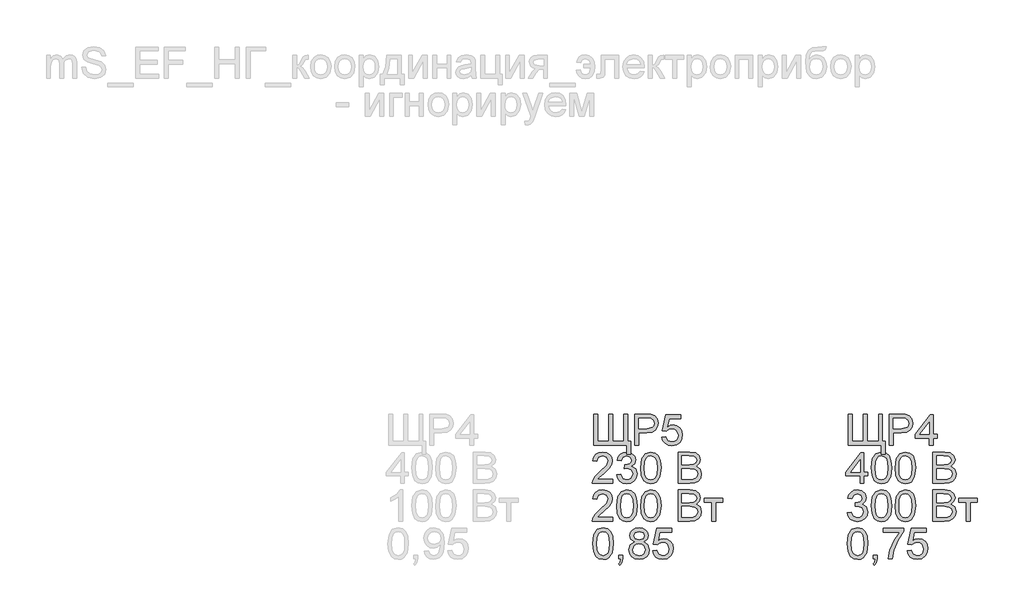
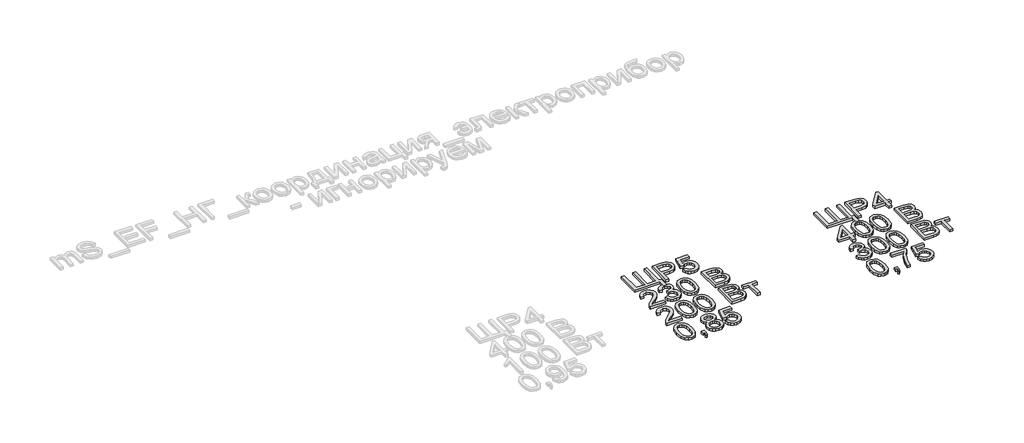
# One storey, part 3 of 3: 2 proxies.
"""IFC4 building model written with IfcOpenShell, lengths in millimetres."""

from ifc_helpers import new_model, si_unit, origin, origin_with_axes, place, context, project, spatial, polyline, outline, extrude, element, save

model = new_model("IFC4")

# Units and contexts
model_context = context("Model", 3, world=origin())
ifc_project = project(units=[si_unit("LENGTHUNIT", "METRE", prefix="MILLI")], contexts=[model_context])

# Site, building, storey
site = spatial("IfcSite", under=ifc_project)
building = spatial("IfcBuilding", under=site)
storey = spatial("IfcBuildingStorey", under=building, Name="Координационный план", Elevation=0.0)

# Proxies
placement = place(None, origin())
element("IfcBuildingElementProxy", 1, Name="100 мм Arial 2", ObjectType="100 мм Arial 2", at=placement, inside=storey, context=model_context, shape_type="SweptSolid", body=[
    extrude(outline(polyline([(15904.6100948, 1779.9187079), (15917.1671335, 1779.9187079), (15917.1671335, 1692.0194365), (15953.26862, 1692.0194365), (15953.26862, 1779.9187079), (15965.8256588, 1779.9187079), (15965.8256588, 1692.0194365), (16001.9271452, 1692.0194365), (16001.9271452, 1779.9187079), (16014.484184, 1779.9187079), (16014.484184, 1692.0194365), (16023.9019631, 1692.0194365), (16023.9019631, 1651.2090605), (16011.3449243, 1651.2090605), (16011.3449243, 1679.4623977), (15904.6100948, 1679.4623977), (15904.6100948, 1779.9187079)])), origin_with_axes(), (0.0, 0.0, 1.0), 10.0),
    extrude(outline(polyline([(16036.4590019, 1679.4623977), (16036.4590019, 1779.9187079), (16073.6886598, 1779.9187079), (16088.6982452, 1778.9622147), (16100.8996647, 1774.2655879), (16108.8091276, 1764.5535032), (16111.8012345, 1750.8560303), (16109.7809492, 1739.0163614), (16103.7200933, 1729.1509926), (16092.3862622, 1722.4923284), (16074.5470511, 1720.2727737), (16049.0160406, 1720.2727737), (16049.0160406, 1679.4623977), (16036.4590019, 1679.4623977)]), holes=[polyline([(16049.0160406, 1732.8298125), (16075.2828151, 1732.8298125), (16093.7750167, 1737.4406002), (16097.8769009, 1742.9894869), (16099.2441957, 1750.4145719), (16096.0190969, 1760.8133696), (16087.5455482, 1766.5032778), (16074.9885095, 1767.3616691), (16049.0160406, 1767.3616691), (16049.0160406, 1732.8298125)])]), origin_with_axes(), (0.0, 0.0, 1.0), 10.0),
    extrude(outline(polyline([(16124.3582732, 1706.1461051), (16136.915312, 1707.715735), (16143.2428823, 1694.7785515), (16156.3640068, 1690.4498067), (16165.364853, 1691.9550572), (16172.1093562, 1696.4708086), (16176.3216051, 1703.475895), (16177.725688, 1712.44915), (16172.4649755, 1727.3606335), (16165.858428, 1731.4625178), (16156.5602105, 1732.8298125), (16145.5360134, 1730.647046), (16138.4849418, 1724.9816633), (16125.9279031, 1726.5512931), (16136.915312, 1778.349078), (16185.5738372, 1778.349078), (16185.5738372, 1765.7920393), (16147.0688551, 1765.7920393), (16141.6977779, 1738.1273132), (16150.6679673, 1743.5719668), (16160.0673522, 1745.3868513), (16171.7997222, 1743.1366397), (16181.539398, 1736.3860051), (16188.0968946, 1726.097572), (16190.2827268, 1713.2339649), (16188.3145581, 1700.6769261), (16182.4100521, 1689.9347719), (16171.1038121, 1680.9032689), (16156.3149559, 1677.8927679), (16143.981712, 1679.8272141), (16134.156197, 1685.6305525), (16127.4208908, 1694.628333), (16124.3582732, 1706.1461051)])), origin_with_axes(), (0.0, 0.0, 1.0), 10.0),
    extrude(outline(polyline([(15965.8256588, 1570.0446187), (15965.8256588, 1557.4875799), (15899.9012052, 1557.4875799), (15901.2501059, 1566.1450695), (15908.8775259, 1579.4746605), (15924.5983499, 1594.0305247), (15946.2788621, 1614.9507475), (15951.6989902, 1629.175518), (15946.5854304, 1640.6902245), (15933.231314, 1645.3868513), (15919.3131119, 1640.8005891), (15914.0278739, 1628.120923), (15901.4708351, 1629.6905528), (15904.5150586, 1641.83679), (15911.0970806, 1650.7088775), (15920.8735447, 1656.1351369), (15933.5010941, 1657.94389), (15946.2206141, 1655.9328018), (15955.978684, 1649.8995371), (15962.1866927, 1640.8864282), (15964.2560289, 1629.9358075), (15962.0242115, 1618.0286936), (15954.6052579, 1605.7169095), (15936.6158284, 1588.5122948), (15922.1703287, 1576.4335026), (15916.504946, 1570.0446187), (15965.8256588, 1570.0446187)])), origin_with_axes(), (0.0, 0.0, 1.0), 10.0),
    extrude(outline(polyline([(15978.3826975, 1584.1712873), (15990.9397363, 1585.7409171), (15997.8681806, 1572.5216908), (16010.8298895, 1568.4749888), (16019.4383282, 1569.866809), (16026.0847296, 1574.0422697), (16031.7501123, 1587.8255818), (16026.1337805, 1600.8118162), (16011.8599591, 1605.9499014), (16003.0553167, 1604.5764753), (16004.4532683, 1617.133514), (16006.4643565, 1616.9863612), (16020.7136525, 1620.5916048), (16025.4593302, 1625.1656043), (16027.0412228, 1631.6771156), (16022.4549606, 1641.4995649), (16010.6336858, 1645.3868513), (15998.6652582, 1641.4627767), (15992.5093662, 1629.6905528), (15979.9523274, 1631.2601827), (15983.6495414, 1642.5357658), (15990.2284978, 1650.9541321), (15999.2293439, 1656.1964506), (16010.1922274, 1657.94389), (16025.3367029, 1654.498062), (16035.9317043, 1645.0802829), (16039.5982615, 1632.4128796), (16036.1156453, 1620.8368595), (16025.8149495, 1612.5227264), (16039.5001597, 1603.9388132), (16044.3071511, 1587.6048526), (16041.9036554, 1575.3666449), (16034.6931683, 1565.1395254), (16023.8099926, 1558.2233439), (16010.3884311, 1555.91795), (15998.2483253, 1557.8861187), (15988.3645623, 1563.7906247), (15981.4913004, 1572.8221277), (15978.3826975, 1584.1712873)])), origin_with_axes(), (0.0, 0.0, 1.0), 10.0),
    extrude(outline(polyline([(16055.29456, 1606.9063946), (16058.9856427, 1635.8096567), (16069.9485261, 1652.474711), (16088.2567868, 1657.94389), (16102.9230156, 1654.7065285), (16113.0520332, 1645.3745885), (16118.9381452, 1630.5121559), (16121.2190135, 1606.9063946), (16117.5647191, 1578.1257598), (16106.6386238, 1561.4239172), (16098.4072642, 1557.2944418), (16088.2567868, 1555.91795), (16075.2092387, 1558.309183), (16065.3009503, 1565.4828819), (16057.7961576, 1582.4728987), (16055.29456, 1606.9063946)]), holes=[polyline([(16067.8515988, 1606.93092), (16069.3231268, 1587.1787226), (16073.7377107, 1575.7467896), (16080.3105357, 1570.292939), (16088.2567868, 1568.4749888), (16096.2030379, 1570.2990704), (16102.7758628, 1575.7713151), (16107.1904468, 1587.2093794), (16108.6619748, 1606.93092), (16107.2394977, 1626.2385934), (16102.9720666, 1637.7594312), (16096.4115043, 1643.4799963), (16088.109634, 1645.3868513), (16080.249222, 1643.7068568), (16073.9339144, 1638.6668735), (16069.3721777, 1626.4286658), (16067.8515988, 1606.93092)])]), origin_with_axes(), (0.0, 0.0, 1.0), 10.0),
    extrude(outline(polyline([(16176.1560582, 1557.4875799), (16176.1560582, 1657.94389), (16214.4893621, 1657.94389), (16233.2636065, 1654.9885713), (16244.3491173, 1645.9018861), (16248.3590311, 1633.0505417), (16244.9867795, 1621.3151061), (16234.7964482, 1612.4246245), (16247.169546, 1603.0558964), (16251.4982908, 1587.4331743), (16248.5429721, 1573.9319051), (16241.2221204, 1564.3179223), (16230.2960251, 1559.2166253), (16214.1950565, 1557.4875799), (16176.1560582, 1557.4875799)]), holes=[polyline([(16188.7130969, 1570.0446187), (16214.4648366, 1570.0446187), (16223.7845138, 1570.535128), (16231.6694512, 1573.2697175), (16236.8933756, 1578.8492611), (16238.941252, 1587.310547), (16236.5377563, 1597.0716826), (16228.7509207, 1602.8964808), (16213.2385633, 1604.5764753), (16188.7130969, 1604.5764753), (16188.7130969, 1570.0446187)]), polyline([(16188.7130969, 1617.133514), (16211.644408, 1617.133514), (16225.0353126, 1618.2126346), (16233.0919283, 1622.8602104), (16235.8019923, 1631.0394535), (16233.2758693, 1639.2309592), (16226.0408567, 1644.0747388), (16209.9030998, 1645.3868513), (16188.7130969, 1645.3868513), (16188.7130969, 1617.133514)])]), origin_with_axes(), (0.0, 0.0, 1.0), 10.0),
    extrude(outline(polyline([(15965.8256588, 1448.0698008), (15965.8256588, 1435.512762), (15899.9012052, 1435.512762), (15901.2501059, 1444.1702517), (15908.8775259, 1457.4998426), (15924.5983499, 1472.0557069), (15946.2788621, 1492.9759297), (15951.6989902, 1507.2007002), (15946.5854304, 1518.7154066), (15933.231314, 1523.4120334), (15919.3131119, 1518.8257712), (15914.0278739, 1506.1461051), (15901.4708351, 1507.715735), (15904.5150586, 1519.8619722), (15911.0970806, 1528.7340596), (15920.8735447, 1534.1603191), (15933.5010941, 1535.9690722), (15946.2206141, 1533.957984), (15955.978684, 1527.9247192), (15962.1866927, 1518.9116104), (15964.2560289, 1507.9609896), (15962.0242115, 1496.0538757), (15954.6052579, 1483.7420916), (15936.6158284, 1466.537477), (15922.1703287, 1454.4586848), (15916.504946, 1448.0698008), (15965.8256588, 1448.0698008)])), origin_with_axes(), (0.0, 0.0, 1.0), 10.0),
    extrude(outline(polyline([(15978.3826975, 1484.9315767), (15982.0737802, 1513.8348388), (15993.0366637, 1530.4998932), (16011.3449243, 1535.9690722), (16026.0111532, 1532.7317106), (16036.1401708, 1523.3997707), (16042.0262827, 1508.5373381), (16044.3071511, 1484.9315767), (16040.6528566, 1456.150942), (16029.7267613, 1439.4490994), (16021.4954017, 1435.319624), (16011.3449243, 1433.9431322), (15998.2973762, 1436.3343652), (15988.3890878, 1443.5080641), (15980.8842951, 1460.4980809), (15978.3826975, 1484.9315767)]), holes=[polyline([(15990.9397363, 1484.9561022), (15992.4112643, 1465.2039047), (15996.8258482, 1453.7719717), (16003.3986732, 1448.3181212), (16011.3449243, 1446.500171), (16019.2911754, 1448.3242525), (16025.8640004, 1453.7964972), (16030.2785843, 1465.2345616), (16031.7501123, 1484.9561022), (16030.3276353, 1504.2637756), (16026.0602041, 1515.7846134), (16019.4996419, 1521.5051784), (16011.1977715, 1523.4120334), (16003.3373596, 1521.732039), (15997.022052, 1516.6920557), (15992.4603152, 1504.4538479), (15990.9397363, 1484.9561022)])]), origin_with_axes(), (0.0, 0.0, 1.0), 10.0),
    extrude(outline(polyline([(16055.29456, 1484.9315767), (16058.9856427, 1513.8348388), (16069.9485261, 1530.4998932), (16088.2567868, 1535.9690722), (16102.9230156, 1532.7317106), (16113.0520332, 1523.3997707), (16118.9381452, 1508.5373381), (16121.2190135, 1484.9315767), (16117.5647191, 1456.150942), (16106.6386238, 1439.4490994), (16098.4072642, 1435.319624), (16088.2567868, 1433.9431322), (16075.2092387, 1436.3343652), (16065.3009503, 1443.5080641), (16057.7961576, 1460.4980809), (16055.29456, 1484.9315767)]), holes=[polyline([(16067.8515988, 1484.9561022), (16069.3231268, 1465.2039047), (16073.7377107, 1453.7719717), (16080.3105357, 1448.3181212), (16088.2567868, 1446.500171), (16096.2030379, 1448.3242525), (16102.7758628, 1453.7964972), (16107.1904468, 1465.2345616), (16108.6619748, 1484.9561022), (16107.2394977, 1504.2637756), (16102.9720666, 1515.7846134), (16096.4115043, 1521.5051784), (16088.109634, 1523.4120334), (16080.249222, 1521.732039), (16073.9339144, 1516.6920557), (16069.3721777, 1504.4538479), (16067.8515988, 1484.9561022)])]), origin_with_axes(), (0.0, 0.0, 1.0), 10.0),
    extrude(outline(polyline([(16176.1560582, 1435.512762), (16176.1560582, 1535.9690722), (16214.4893621, 1535.9690722), (16233.2636065, 1533.0137535), (16244.3491173, 1523.9270682), (16248.3590311, 1511.0757239), (16244.9867795, 1499.3402882), (16234.7964482, 1490.4498067), (16247.169546, 1481.0810785), (16251.4982908, 1465.4583565), (16248.5429721, 1451.9570872), (16241.2221204, 1442.3431044), (16230.2960251, 1437.2418074), (16214.1950565, 1435.512762), (16176.1560582, 1435.512762)]), holes=[polyline([(16188.7130969, 1495.1586962), (16211.644408, 1495.1586962), (16225.0353126, 1496.2378167), (16233.0919283, 1500.8853926), (16235.8019923, 1509.0646356), (16233.2758693, 1517.2561414), (16226.0408567, 1522.099921), (16209.9030998, 1523.4120334), (16188.7130969, 1523.4120334), (16188.7130969, 1495.1586962)]), polyline([(16188.7130969, 1448.0698008), (16214.4648366, 1448.0698008), (16223.7845138, 1448.5603101), (16231.6694512, 1451.2948996), (16236.8933756, 1456.8744432), (16238.941252, 1465.3357291), (16236.5377563, 1475.0968647), (16228.7509207, 1480.921663), (16213.2385633, 1482.6016574), (16188.7130969, 1482.6016574), (16188.7130969, 1448.0698008)])]), origin_with_axes(), (0.0, 0.0, 1.0), 10.0),
    extrude(outline(polyline([(16260.9160698, 1509.2853648), (16320.562004, 1509.2853648), (16320.562004, 1496.728326), (16297.0175563, 1496.728326), (16297.0175563, 1435.512762), (16284.4605175, 1435.512762), (16284.4605175, 1496.728326), (16260.9160698, 1496.728326), (16260.9160698, 1509.2853648)])), origin_with_axes(), (0.0, 0.0, 1.0), 10.0),
    extrude(outline(polyline([(15901.4708351, 1362.9567589), (15905.1619178, 1391.860021), (15916.1248012, 1408.5250754), (15934.4330619, 1413.9942544), (15949.0992907, 1410.7568928), (15959.2283083, 1401.4249529), (15965.1144203, 1386.5625202), (15967.3952886, 1362.9567589), (15963.7409941, 1334.1761241), (15952.8148989, 1317.4742816), (15944.5835392, 1313.3448062), (15934.4330619, 1311.9683144), (15921.3855138, 1314.3595473), (15911.4772254, 1321.5332462), (15903.9724327, 1338.523263), (15901.4708351, 1362.9567589)]), holes=[polyline([(15914.0278739, 1362.9812844), (15915.4994018, 1343.2290869), (15919.9139858, 1331.7971539), (15926.4868108, 1326.3433033), (15934.4330619, 1324.5253531), (15942.379313, 1326.3494347), (15948.9521379, 1331.8216794), (15953.3667219, 1343.2597437), (15954.8382499, 1362.9812844), (15953.4157728, 1382.2889577), (15949.1483417, 1393.8097956), (15942.5877794, 1399.5303606), (15934.2859091, 1401.4372156), (15926.4254971, 1399.7572211), (15920.1101895, 1394.7172378), (15915.5484528, 1382.4790301), (15914.0278739, 1362.9812844)])]), origin_with_axes(), (0.0, 0.0, 1.0), 10.0),
    extrude(outline(polyline([(15984.6612169, 1313.5379442), (15984.6612169, 1326.094983), (15997.2182557, 1326.094983), (15997.2182557, 1313.5379442), (15994.9619128, 1300.6988626), (15987.8004766, 1293.1327562), (15984.6612169, 1297.8416457), (15989.2720046, 1303.2617738), (15990.9152108, 1313.5379442), (15984.6612169, 1313.5379442)])), origin_with_axes(), (0.0, 0.0, 1.0), 10.0),
    extrude(outline(polyline([(16035.9194416, 1368.8673963), (16024.4783115, 1376.6664946), (16020.7627034, 1388.8066004), (16022.7860544, 1398.6229183), (16028.8561073, 1406.7347163), (16038.2922805, 1412.1793698), (16050.4139922, 1413.9942544), (16062.6092803, 1412.1364503), (16072.1680809, 1406.5630381), (16078.3484984, 1398.3224814), (16080.4086375, 1388.4632439), (16076.7420803, 1376.6297064), (16065.6197813, 1368.8673963), (16078.9738978, 1359.0204215), (16083.5478972, 1342.7723001), (16081.2792916, 1330.7670843), (16074.4734747, 1320.8465332), (16063.9643124, 1314.1878691), (16050.5856705, 1311.9683144), (16037.2070286, 1314.1970661), (16026.6978662, 1320.8833214), (16019.8920493, 1330.8989087), (16017.6234437, 1343.1156566), (16022.3813842, 1359.7439228), (16035.9194416, 1368.8673963)]), holes=[polyline([(16033.3197422, 1388.4387184), (16037.7711143, 1378.579481), (16050.7328233, 1374.7535082), (16063.4370148, 1378.5549555), (16067.8515988, 1387.8746327), (16063.289862, 1397.5254037), (16050.5856705, 1401.4372156), (16037.8446907, 1397.6112428), (16033.3197422, 1388.4387184)]), polyline([(16030.1804825, 1343.557115), (16032.2774098, 1334.1025477), (16039.6963634, 1327.0269507), (16050.6837723, 1324.5253531), (16059.2308974, 1325.8405313), (16065.6443068, 1329.7860657), (16070.9908585, 1343.1647075), (16065.4726285, 1356.8008668), (16058.9120663, 1360.8475688), (16050.2668394, 1362.1964694), (16041.839276, 1360.8659629), (16035.4902459, 1356.8744432), (16030.1804825, 1343.557115)])]), origin_with_axes(), (0.0, 0.0, 1.0), 10.0),
    extrude(outline(polyline([(16094.5353062, 1340.2216516), (16107.0923449, 1341.7912814), (16113.4199152, 1328.8540979), (16126.5410397, 1324.5253531), (16135.5418859, 1326.0306036), (16142.2863891, 1330.5463551), (16146.498638, 1337.5514414), (16147.9027209, 1346.5246964), (16142.6420084, 1361.43618), (16136.0354609, 1365.5380642), (16126.7372435, 1366.905359), (16115.7130463, 1364.7225925), (16108.6619748, 1359.0572097), (16096.104936, 1360.6268396), (16107.0923449, 1412.4246245), (16155.7508702, 1412.4246245), (16155.7508702, 1399.8675857), (16117.245888, 1399.8675857), (16111.8748109, 1372.2028597), (16120.8450002, 1377.6475132), (16130.2443852, 1379.4623977), (16141.9767551, 1377.2121862), (16151.7164309, 1370.4615516), (16158.2739275, 1360.1731185), (16160.4597597, 1347.3095114), (16158.491591, 1334.7524726), (16152.587085, 1324.0103183), (16141.280845, 1314.9788154), (16126.4919888, 1311.9683144), (16114.1587449, 1313.9027605), (16104.33323, 1319.706099), (16097.5979238, 1328.7038795), (16094.5353062, 1340.2216516)])), origin_with_axes(), (0.0, 0.0, 1.0), 10.0),
])
element("IfcBuildingElementProxy", 2, Name="100 мм Arial 2", ObjectType="100 мм Arial 2", at=placement, inside=storey, context=model_context, shape_type="SweptSolid", body=[
    extrude(outline(polyline([(16724.6100948, 1779.9187079), (16737.1671335, 1779.9187079), (16737.1671335, 1692.0194365), (16773.26862, 1692.0194365), (16773.26862, 1779.9187079), (16785.8256588, 1779.9187079), (16785.8256588, 1692.0194365), (16821.9271452, 1692.0194365), (16821.9271452, 1779.9187079), (16834.484184, 1779.9187079), (16834.484184, 1692.0194365), (16843.9019631, 1692.0194365), (16843.9019631, 1651.2090605), (16831.3449243, 1651.2090605), (16831.3449243, 1679.4623977), (16724.6100948, 1679.4623977), (16724.6100948, 1779.9187079)])), origin_with_axes(), (0.0, 0.0, 1.0), 10.0),
    extrude(outline(polyline([(16856.4590019, 1679.4623977), (16856.4590019, 1779.9187079), (16893.6886598, 1779.9187079), (16908.6982452, 1778.9622147), (16920.8996647, 1774.2655879), (16928.8091276, 1764.5535032), (16931.8012345, 1750.8560303), (16929.7809492, 1739.0163614), (16923.7200933, 1729.1509926), (16912.3862622, 1722.4923284), (16894.5470511, 1720.2727737), (16869.0160406, 1720.2727737), (16869.0160406, 1679.4623977), (16856.4590019, 1679.4623977)]), holes=[polyline([(16869.0160406, 1732.8298125), (16895.2828151, 1732.8298125), (16913.7750167, 1737.4406002), (16917.8769009, 1742.9894869), (16919.2441957, 1750.4145719), (16916.0190969, 1760.8133696), (16907.5455482, 1766.5032778), (16894.9885095, 1767.3616691), (16869.0160406, 1767.3616691), (16869.0160406, 1732.8298125)])]), origin_with_axes(), (0.0, 0.0, 1.0), 10.0),
    extrude(outline(polyline([(16985.1686492, 1679.4623977), (16985.1686492, 1703.0068454), (16939.6493837, 1703.0068454), (16939.6493837, 1715.5638842), (16988.3079089, 1778.349078), (16997.725688, 1778.349078), (16997.725688, 1715.5638842), (17010.2827268, 1715.5638842), (17010.2827268, 1703.0068454), (16997.725688, 1703.0068454), (16997.725688, 1679.4623977), (16985.1686492, 1679.4623977)]), holes=[polyline([(16985.1686492, 1715.5638842), (16985.1686492, 1754.363172), (16955.1004275, 1715.5638842), (16985.1686492, 1715.5638842)])]), origin_with_axes(), (0.0, 0.0, 1.0), 10.0),
    extrude(outline(polyline([(16762.2812111, 1557.4875799), (16762.2812111, 1581.0320276), (16716.7619456, 1581.0320276), (16716.7619456, 1593.5890664), (16765.4204708, 1656.3742602), (16774.8382499, 1656.3742602), (16774.8382499, 1593.5890664), (16787.3952886, 1593.5890664), (16787.3952886, 1581.0320276), (16774.8382499, 1581.0320276), (16774.8382499, 1557.4875799), (16762.2812111, 1557.4875799)]), holes=[polyline([(16762.2812111, 1593.5890664), (16762.2812111, 1632.3883541), (16732.2129893, 1593.5890664), (16762.2812111, 1593.5890664)])]), origin_with_axes(), (0.0, 0.0, 1.0), 10.0),
    extrude(outline(polyline([(16798.3826975, 1606.9063946), (16802.0737802, 1635.8096567), (16813.0366637, 1652.474711), (16831.3449243, 1657.94389), (16846.0111532, 1654.7065285), (16856.1401708, 1645.3745885), (16862.0262827, 1630.5121559), (16864.3071511, 1606.9063946), (16860.6528566, 1578.1257598), (16849.7267613, 1561.4239172), (16841.4954017, 1557.2944418), (16831.3449243, 1555.91795), (16818.2973762, 1558.309183), (16808.3890878, 1565.4828819), (16800.8842951, 1582.4728987), (16798.3826975, 1606.9063946)]), holes=[polyline([(16810.9397363, 1606.93092), (16812.4112643, 1587.1787226), (16816.8258482, 1575.7467896), (16823.3986732, 1570.292939), (16831.3449243, 1568.4749888), (16839.2911754, 1570.2990704), (16845.8640004, 1575.7713151), (16850.2785843, 1587.2093794), (16851.7501123, 1606.93092), (16850.3276353, 1626.2385934), (16846.0602041, 1637.7594312), (16839.4996419, 1643.4799963), (16831.1977715, 1645.3868513), (16823.3373596, 1643.7068568), (16817.022052, 1638.6668735), (16812.4603152, 1626.4286658), (16810.9397363, 1606.93092)])]), origin_with_axes(), (0.0, 0.0, 1.0), 10.0),
    extrude(outline(polyline([(16875.29456, 1606.9063946), (16878.9856427, 1635.8096567), (16889.9485261, 1652.474711), (16908.2567868, 1657.94389), (16922.9230156, 1654.7065285), (16933.0520332, 1645.3745885), (16938.9381452, 1630.5121559), (16941.2190135, 1606.9063946), (16937.5647191, 1578.1257598), (16926.6386238, 1561.4239172), (16918.4072642, 1557.2944418), (16908.2567868, 1555.91795), (16895.2092387, 1558.309183), (16885.3009503, 1565.4828819), (16877.7961576, 1582.4728987), (16875.29456, 1606.9063946)]), holes=[polyline([(16887.8515988, 1606.93092), (16889.3231268, 1587.1787226), (16893.7377107, 1575.7467896), (16900.3105357, 1570.292939), (16908.2567868, 1568.4749888), (16916.2030379, 1570.2990704), (16922.7758628, 1575.7713151), (16927.1904468, 1587.2093794), (16928.6619748, 1606.93092), (16927.2394977, 1626.2385934), (16922.9720666, 1637.7594312), (16916.4115043, 1643.4799963), (16908.109634, 1645.3868513), (16900.249222, 1643.7068568), (16893.9339144, 1638.6668735), (16889.3721777, 1626.4286658), (16887.8515988, 1606.93092)])]), origin_with_axes(), (0.0, 0.0, 1.0), 10.0),
    extrude(outline(polyline([(16996.1560582, 1557.4875799), (16996.1560582, 1657.94389), (17034.4893621, 1657.94389), (17053.2636065, 1654.9885713), (17064.3491173, 1645.9018861), (17068.3590311, 1633.0505417), (17064.9867795, 1621.3151061), (17054.7964482, 1612.4246245), (17067.169546, 1603.0558964), (17071.4982908, 1587.4331743), (17068.5429721, 1573.9319051), (17061.2221204, 1564.3179223), (17050.2960251, 1559.2166253), (17034.1950565, 1557.4875799), (16996.1560582, 1557.4875799)]), holes=[polyline([(17008.7130969, 1617.133514), (17031.644408, 1617.133514), (17045.0353126, 1618.2126346), (17053.0919283, 1622.8602104), (17055.8019923, 1631.0394535), (17053.2758693, 1639.2309592), (17046.0408567, 1644.0747388), (17029.9030998, 1645.3868513), (17008.7130969, 1645.3868513), (17008.7130969, 1617.133514)]), polyline([(17008.7130969, 1570.0446187), (17034.4648366, 1570.0446187), (17043.7845138, 1570.535128), (17051.6694512, 1573.2697175), (17056.8933756, 1578.8492611), (17058.941252, 1587.310547), (17056.5377563, 1597.0716826), (17048.7509207, 1602.8964808), (17033.2385633, 1604.5764753), (17008.7130969, 1604.5764753), (17008.7130969, 1570.0446187)])]), origin_with_axes(), (0.0, 0.0, 1.0), 10.0),
    extrude(outline(polyline([(16721.4708351, 1462.1964694), (16734.0278739, 1463.7660993), (16740.9563181, 1450.5468729), (16753.9180271, 1446.500171), (16762.5264658, 1447.8919912), (16769.1728671, 1452.0674518), (16774.8382499, 1465.8507639), (16769.2219181, 1478.8369983), (16754.9480967, 1483.9750835), (16746.1434542, 1482.6016574), (16747.5414058, 1495.1586962), (16749.5524941, 1495.0115434), (16763.80179, 1498.616787), (16768.5474677, 1503.1907864), (16770.1293603, 1509.7022977), (16765.5430981, 1519.524747), (16753.7218233, 1523.4120334), (16741.7533958, 1519.4879588), (16735.5975037, 1507.715735), (16723.0404649, 1509.2853648), (16726.737679, 1520.560948), (16733.3166353, 1528.9793143), (16742.3174815, 1534.2216327), (16753.2803649, 1535.9690722), (16768.4248404, 1532.5232442), (16779.0198419, 1523.1054651), (16782.6863991, 1510.4380617), (16779.2037829, 1498.8620416), (16768.903087, 1490.5479085), (16782.5882972, 1481.9639953), (16787.3952886, 1465.6300347), (16784.9917929, 1453.391827), (16777.7813058, 1443.1647075), (16766.8981301, 1436.248526), (16753.4765687, 1433.9431322), (16741.3364628, 1435.9113009), (16731.4526999, 1441.8158069), (16724.5794379, 1450.8473099), (16721.4708351, 1462.1964694)])), origin_with_axes(), (0.0, 0.0, 1.0), 10.0),
    extrude(outline(polyline([(16798.3826975, 1484.9315767), (16802.0737802, 1513.8348388), (16813.0366637, 1530.4998932), (16831.3449243, 1535.9690722), (16846.0111532, 1532.7317106), (16856.1401708, 1523.3997707), (16862.0262827, 1508.5373381), (16864.3071511, 1484.9315767), (16860.6528566, 1456.150942), (16849.7267613, 1439.4490994), (16841.4954017, 1435.319624), (16831.3449243, 1433.9431322), (16818.2973762, 1436.3343652), (16808.3890878, 1443.5080641), (16800.8842951, 1460.4980809), (16798.3826975, 1484.9315767)]), holes=[polyline([(16810.9397363, 1484.9561022), (16812.4112643, 1465.2039047), (16816.8258482, 1453.7719717), (16823.3986732, 1448.3181212), (16831.3449243, 1446.500171), (16839.2911754, 1448.3242525), (16845.8640004, 1453.7964972), (16850.2785843, 1465.2345616), (16851.7501123, 1484.9561022), (16850.3276353, 1504.2637756), (16846.0602041, 1515.7846134), (16839.4996419, 1521.5051784), (16831.1977715, 1523.4120334), (16823.3373596, 1521.732039), (16817.022052, 1516.6920557), (16812.4603152, 1504.4538479), (16810.9397363, 1484.9561022)])]), origin_with_axes(), (0.0, 0.0, 1.0), 10.0),
    extrude(outline(polyline([(16875.29456, 1484.9315767), (16878.9856427, 1513.8348388), (16889.9485261, 1530.4998932), (16908.2567868, 1535.9690722), (16922.9230156, 1532.7317106), (16933.0520332, 1523.3997707), (16938.9381452, 1508.5373381), (16941.2190135, 1484.9315767), (16937.5647191, 1456.150942), (16926.6386238, 1439.4490994), (16918.4072642, 1435.319624), (16908.2567868, 1433.9431322), (16895.2092387, 1436.3343652), (16885.3009503, 1443.5080641), (16877.7961576, 1460.4980809), (16875.29456, 1484.9315767)]), holes=[polyline([(16887.8515988, 1484.9561022), (16889.3231268, 1465.2039047), (16893.7377107, 1453.7719717), (16900.3105357, 1448.3181212), (16908.2567868, 1446.500171), (16916.2030379, 1448.3242525), (16922.7758628, 1453.7964972), (16927.1904468, 1465.2345616), (16928.6619748, 1484.9561022), (16927.2394977, 1504.2637756), (16922.9720666, 1515.7846134), (16916.4115043, 1521.5051784), (16908.109634, 1523.4120334), (16900.249222, 1521.732039), (16893.9339144, 1516.6920557), (16889.3721777, 1504.4538479), (16887.8515988, 1484.9561022)])]), origin_with_axes(), (0.0, 0.0, 1.0), 10.0),
    extrude(outline(polyline([(16996.1560582, 1435.512762), (16996.1560582, 1535.9690722), (17034.4893621, 1535.9690722), (17053.2636065, 1533.0137535), (17064.3491173, 1523.9270682), (17068.3590311, 1511.0757239), (17064.9867795, 1499.3402882), (17054.7964482, 1490.4498067), (17067.169546, 1481.0810785), (17071.4982908, 1465.4583565), (17068.5429721, 1451.9570872), (17061.2221204, 1442.3431044), (17050.2960251, 1437.2418074), (17034.1950565, 1435.512762), (16996.1560582, 1435.512762)]), holes=[polyline([(17008.7130969, 1495.1586962), (17031.644408, 1495.1586962), (17045.0353126, 1496.2378167), (17053.0919283, 1500.8853926), (17055.8019923, 1509.0646356), (17053.2758693, 1517.2561414), (17046.0408567, 1522.099921), (17029.9030998, 1523.4120334), (17008.7130969, 1523.4120334), (17008.7130969, 1495.1586962)]), polyline([(17008.7130969, 1448.0698008), (17034.4648366, 1448.0698008), (17043.7845138, 1448.5603101), (17051.6694512, 1451.2948996), (17056.8933756, 1456.8744432), (17058.941252, 1465.3357291), (17056.5377563, 1475.0968647), (17048.7509207, 1480.921663), (17033.2385633, 1482.6016574), (17008.7130969, 1482.6016574), (17008.7130969, 1448.0698008)])]), origin_with_axes(), (0.0, 0.0, 1.0), 10.0),
    extrude(outline(polyline([(17080.9160698, 1509.2853648), (17140.562004, 1509.2853648), (17140.562004, 1496.728326), (17117.0175563, 1496.728326), (17117.0175563, 1435.512762), (17104.4605175, 1435.512762), (17104.4605175, 1496.728326), (17080.9160698, 1496.728326), (17080.9160698, 1509.2853648)])), origin_with_axes(), (0.0, 0.0, 1.0), 10.0),
    extrude(outline(polyline([(16721.4708351, 1362.9567589), (16725.1619178, 1391.860021), (16736.1248012, 1408.5250754), (16754.4330619, 1413.9942544), (16769.0992907, 1410.7568928), (16779.2283083, 1401.4249529), (16785.1144203, 1386.5625202), (16787.3952886, 1362.9567589), (16783.7409941, 1334.1761241), (16772.8148989, 1317.4742816), (16764.5835392, 1313.3448062), (16754.4330619, 1311.9683144), (16741.3855138, 1314.3595473), (16731.4772254, 1321.5332462), (16723.9724327, 1338.523263), (16721.4708351, 1362.9567589)]), holes=[polyline([(16734.0278739, 1362.9812844), (16735.4994018, 1343.2290869), (16739.9139858, 1331.7971539), (16746.4868108, 1326.3433033), (16754.4330619, 1324.5253531), (16762.379313, 1326.3494347), (16768.9521379, 1331.8216794), (16773.3667219, 1343.2597437), (16774.8382499, 1362.9812844), (16773.4157728, 1382.2889577), (16769.1483417, 1393.8097956), (16762.5877794, 1399.5303606), (16754.2859091, 1401.4372156), (16746.4254971, 1399.7572211), (16740.1101895, 1394.7172378), (16735.5484528, 1382.4790301), (16734.0278739, 1362.9812844)])]), origin_with_axes(), (0.0, 0.0, 1.0), 10.0),
    extrude(outline(polyline([(16804.6612169, 1313.5379442), (16804.6612169, 1326.094983), (16817.2182557, 1326.094983), (16817.2182557, 1313.5379442), (16814.9619128, 1300.6988626), (16807.8004766, 1293.1327562), (16804.6612169, 1297.8416457), (16809.2720046, 1303.2617738), (16810.9152108, 1313.5379442), (16804.6612169, 1313.5379442)])), origin_with_axes(), (0.0, 0.0, 1.0), 10.0),
    extrude(outline(polyline([(16837.6234437, 1399.8675857), (16837.6234437, 1412.4246245), (16903.5478972, 1412.4246245), (16903.5478972, 1402.2710814), (16884.8472291, 1375.2562803), (16870.5366195, 1340.8347882), (16865.8767809, 1313.5379442), (16853.3197422, 1313.5379442), (16858.3106746, 1341.8648578), (16872.0081475, 1373.8828541), (16890.9908585, 1399.8675857), (16837.6234437, 1399.8675857)])), origin_with_axes(), (0.0, 0.0, 1.0), 10.0),
    extrude(outline(polyline([(16914.5353062, 1340.2216516), (16927.0923449, 1341.7912814), (16933.4199152, 1328.8540979), (16946.5410397, 1324.5253531), (16955.5418859, 1326.0306036), (16962.2863891, 1330.5463551), (16966.498638, 1337.5514414), (16967.9027209, 1346.5246964), (16962.6420084, 1361.43618), (16956.0354609, 1365.5380642), (16946.7372435, 1366.905359), (16935.7130463, 1364.7225925), (16928.6619748, 1359.0572097), (16916.104936, 1360.6268396), (16927.0923449, 1412.4246245), (16975.7508702, 1412.4246245), (16975.7508702, 1399.8675857), (16937.245888, 1399.8675857), (16931.8748109, 1372.2028597), (16940.8450002, 1377.6475132), (16950.2443852, 1379.4623977), (16961.9767551, 1377.2121862), (16971.7164309, 1370.4615516), (16978.2739275, 1360.1731185), (16980.4597597, 1347.3095114), (16978.491591, 1334.7524726), (16972.587085, 1324.0103183), (16961.280845, 1314.9788154), (16946.4919888, 1311.9683144), (16934.1587449, 1313.9027605), (16924.33323, 1319.706099), (16917.5979238, 1328.7038795), (16914.5353062, 1340.2216516)])), origin_with_axes(), (0.0, 0.0, 1.0), 10.0),
])

save(model, "model.ifc")
